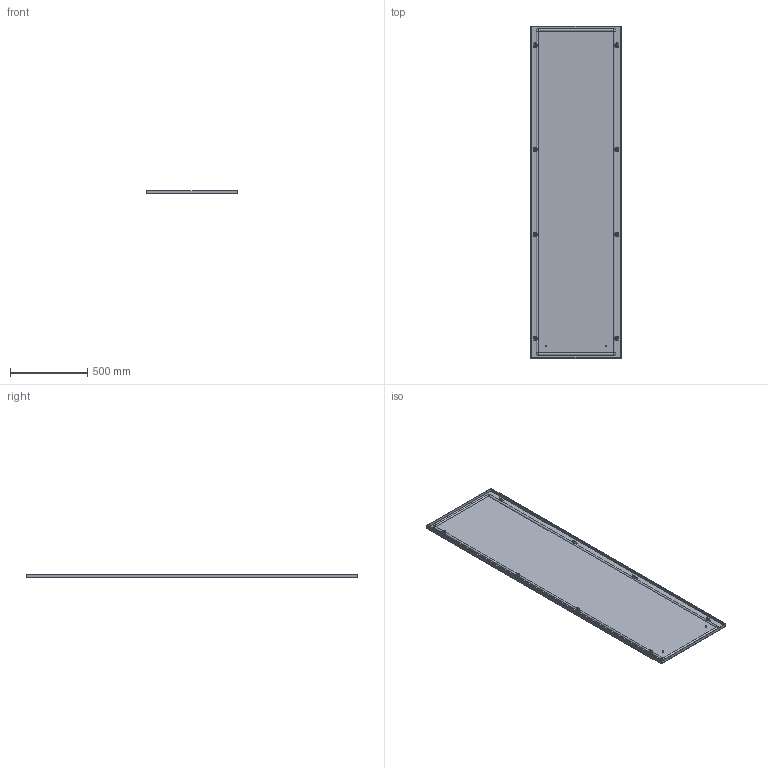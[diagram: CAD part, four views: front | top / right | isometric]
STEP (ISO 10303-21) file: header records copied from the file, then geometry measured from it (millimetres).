
FILE_DESCRIPTION(('Open CASCADE Model'),'2;1');
FILE_NAME('Open CASCADE Shape Model','2025-02-07T16:30:51',('Author'),( 'Open CASCADE'),'Open CASCADE STEP processor 7.8','Open CASCADE 7.8' ,'Unknown');
FILE_SCHEMA(('AUTOMOTIVE_DESIGN { 1 0 10303 214 1 1 1 1 }'));
Length unit declared in the file: millimetre
Products named in the file (10): Compound1; Compound2; Compound3; Solid1; Solid2; Solid3; Solid4; Solid5; Solid6; Solid7
Assembly tree (40 placements, depth 4):
  Compound1
    Compound2
      Compound3
        Solid1
        Solid2  x4
      Solid3
    Solid4  x8
    Solid5  x8
    Solid6  x8
    Solid7  x8
Bounding box: 594 x 2155 x 23.8 mm (x, y, z)
Volume: 2620141.1 mm3; surface area: 3093486.9 mm2
Topology: 38 solids, 38 shells, 1655 faces, 4040 edges, 2460 vertices
Faces by surface type: plane 1043, cone 308, cylinder 268, torus 28, bspline 8
Full cylindrical faces by diameter (mm): 5 x16, 6 x132, 7.5 x4, 8 x16, 10 x8, 11.57 x8
Entity records: 7757 total; most frequent: CARTESIAN_POINT 1447, DIRECTION 1265, ORIENTED_EDGE 1244, EDGE_CURVE 622, AXIS2_PLACEMENT_3D 428, LINE 409, VECTOR 409, VERTEX_POINT 387
